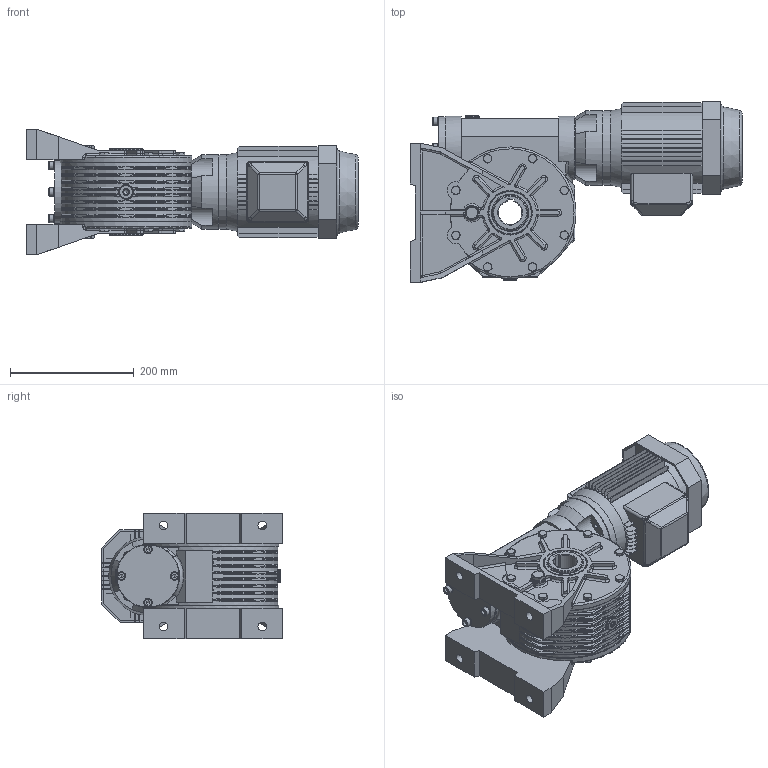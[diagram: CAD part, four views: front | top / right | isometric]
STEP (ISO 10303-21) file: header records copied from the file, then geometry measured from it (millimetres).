
FILE_DESCRIPTION((''),'2;1');
FILE_NAME('Y:\Archivi Inventor\Prog_01\GRAND_50\complessivi\Figurini\MRV50 sito\80\mrv50_P3_80_b14.stp','2013-02-06T15:08:41',('tech3'),(''),'Autodesk Inventor 2013','Autodesk Inventor 2013','');
FILE_SCHEMA(('AUTOMOTIVE_DESIGN { 1 0 10303 214 1 1 1 1 }'));
Length unit declared in the file: millimetre
Products named in the file (18): mrv50_80_b14; mrv50_fig; Figurino_carcassa_MRV50; 0105028; 0105029; figurino_corona_MRV50; figurino_0105010; Guarnizione 3_8 GAS; Tappo 3_8 GAS_esagn_incsst; Tappo3_8 GAS; figurino_0105009; ISO 4017 M8 x 20; 55_70_8; UNI 6592 8.4 x 14; UNI 5931  M 8 x  25; 0105006; DIN EN ISO 4762 M8 x 20; motori B14 80
Assembly tree (50 placements, depth 3):
  mrv50_80_b14
    mrv50_fig
      Figurino_carcassa_MRV50
      0105028  x2
      0105029  x2
      figurino_corona_MRV50
      figurino_0105010  x2
      Guarnizione 3_8 GAS  x4
      Tappo 3_8 GAS_esagn_incsst  x2
      Tappo3_8 GAS  x2
      figurino_0105009
      ISO 4017 M8 x 20  x16
      55_70_8  x2
      UNI 6592 8.4 x 14  x4
      UNI 5931  M 8 x  25  x4
    0105006
    DIN EN ISO 4762 M8 x 20  x4
    motori B14 80
Bounding box: 537.35 x 292.56 x 203.7 mm (x, y, z)
Volume: 9565190.2 mm3; surface area: 1080157.1 mm2
Topology: 61 solids, 63 shells, 2050 faces, 4909 edges, 2930 vertices
Faces by surface type: plane 864, cylinder 607, cone 229, bspline 162, torus 150, sphere 38
Full cylindrical faces by diameter (mm): 2 x2, 4.917 x4, 6.647 x24, 7 x4, 8 x26, 8.4 x4, 8.5 x48, 11.63 x16, 13 x12, 13.046 x2, 14 x12, 14.95 x4, 16.3 x4, 16.5 x2, 19 x1, 22 x8, 24 x2, 55 x1, 60 x1, 66.4 x2, 69 x2, 70 x5, 72 x4, 73 x2, 75 x1, 80 x1, 99.5 x2, 101 x1, 102 x2, 114.4 x1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
Entity records: 48469 total; most frequent: CARTESIAN_POINT 16768, DIRECTION 6486, ORIENTED_EDGE 6074, EDGE_CURVE 3037, AXIS2_PLACEMENT_3D 2513, VERTEX_POINT 1971, EDGE_LOOP 1712, VECTOR 1460
